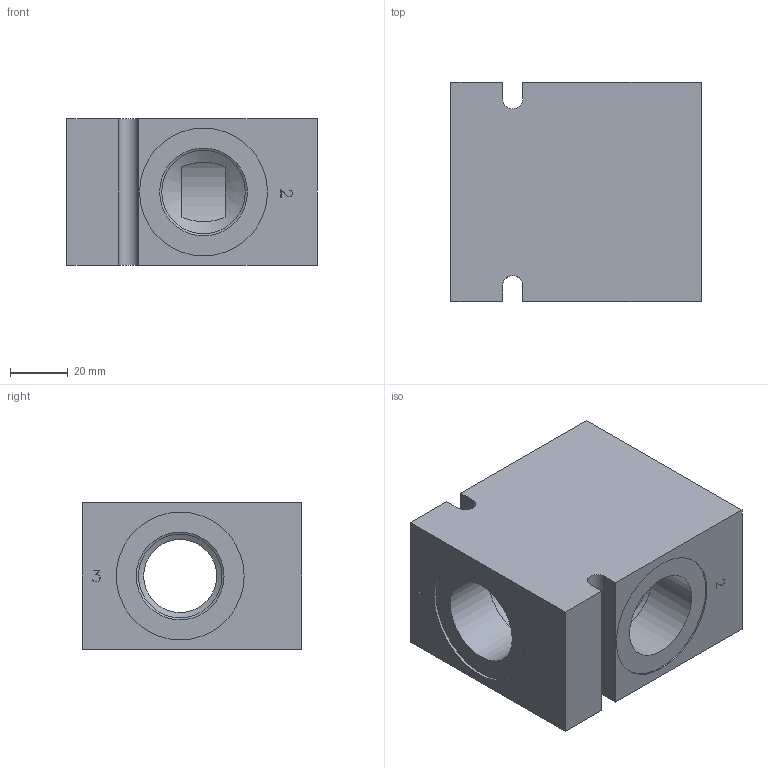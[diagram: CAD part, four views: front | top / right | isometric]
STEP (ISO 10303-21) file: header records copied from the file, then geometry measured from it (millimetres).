
FILE_DESCRIPTION( ( 'Unknown' ), '1' );
FILE_NAME( 'G:/Graphic Design/Graphic Design 2/Data Sheets/Delta Bodies/DRAWINGS/B-DSLE3.stp', 'Unknown', ( 'Unknown' ), ( 'Unknown' ), 'PSStep 16.0.42', 'Unknown', ' ' );
FILE_SCHEMA( ( 'AUTOMOTIVE_DESIGN { 1 0 10303 214 1 1 1 1 }' ) );
Length unit declared in the file: millimetre
Products named in the file (2): Assem1; B-DSLE3
Assembly tree (1 placements, depth 2):
  Assem1
    B-DSLE3
Bounding box: 87 x 76.2 x 50.8 mm (x, y, z)
Surface area: 41886.3 mm2 (no closed solid volume)
Topology: 0 solids, 134 shells, 134 faces, 673 edges, 643 vertices
Faces by surface type: plane 101, cylinder 23, cone 10
Full cylindrical faces by diameter (mm): 6.3 x1, 11.5 x2, 22.22 x1, 25.4 x1, 27.051 x1, 28.6 x2, 28.651 x1, 29 x2, 30.5 x4, 31.806 x2, 44.45 x2, 48.514 x1
Entity records: 7294 total; most frequent: CARTESIAN_POINT 1956, DIRECTION 668, ORIENTED_EDGE 622, EDGE_CURVE 622, VERTEX_POINT 622, B_SPLINE_CURVE_WITH_KNOTS 316, AXIS2_PLACEMENT_3D 226, LINE 216
